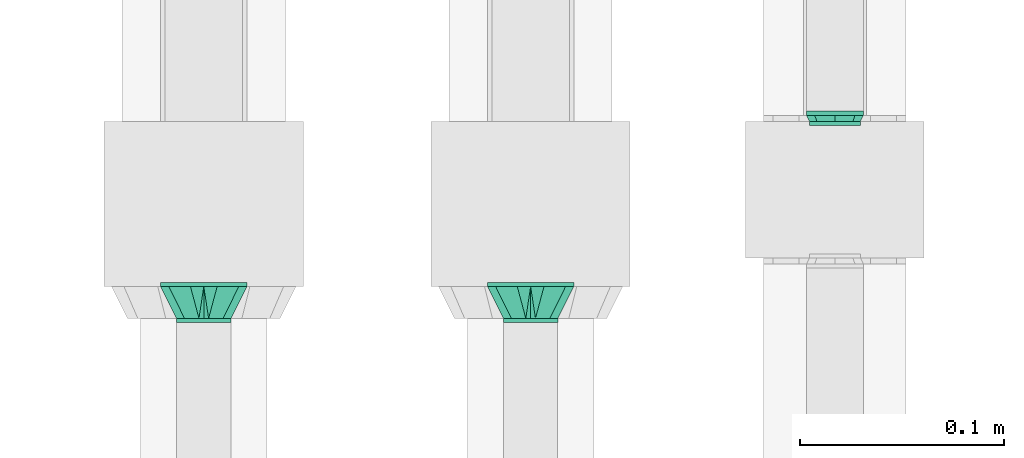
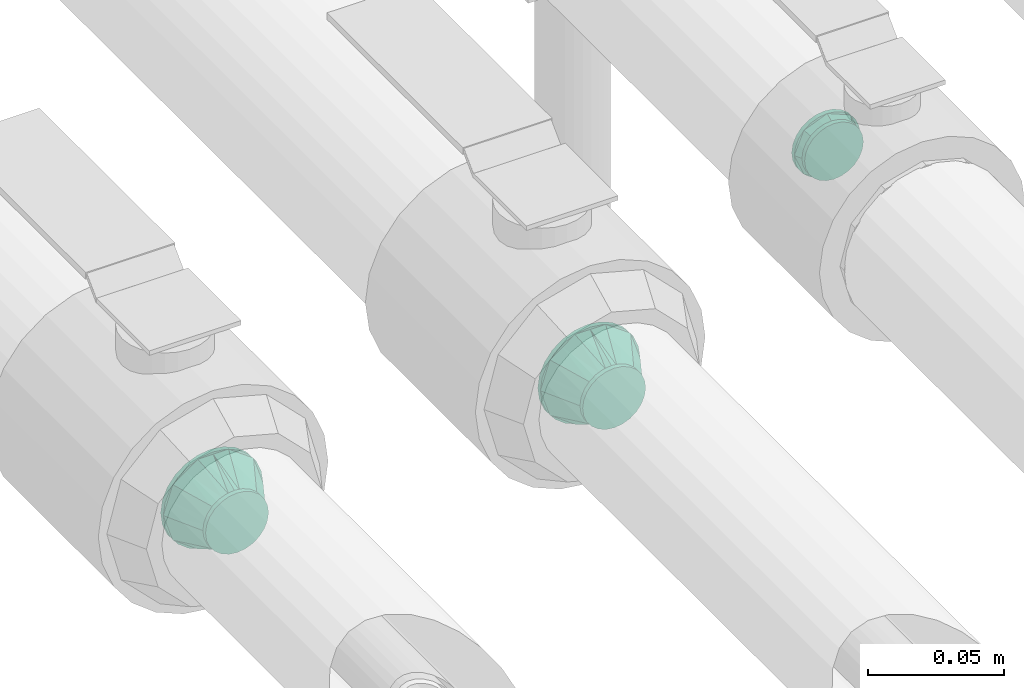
# One storey, part 48 of 83: 3 flow fittings.
"""IFC2X3 building model written with IfcOpenShell, lengths in millimetres."""

from ifc_helpers import new_model, entity, si_unit, converted_unit, derived_unit, direction, frame, origin_with_axes, place, context, subcontext, project, spatial, open_shell, surface_model, source, transform, mapped, type_object, element, save


model = new_model("IFC2X3")

# Units and contexts
model_context = context("Model", 3, precision=0.01, world=frame((0.0, 4.29681676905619e-09, 0.0)), true_north=direction((4.01073788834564e-13, 1.0)))
plan_context = context("Plan", 3, precision=0.01, world=frame((0.0, 4.29681676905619e-09, 0.0)), true_north=direction((4.01073788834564e-13, 1.0)))
body_context = subcontext(model_context, "Body", "Model", "MODEL_VIEW")
ifc_project = project(units=[converted_unit("PLANEANGLEUNIT", "DEGREE", entity("IfcPositiveLengthMeasure", 0.0174532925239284), si_unit("PLANEANGLEUNIT", "RADIAN"), dimensions=[0, 0, 0, 0, 0, 0, 0]), si_unit("AREAUNIT", "SQUARE_METRE"), si_unit("LENGTHUNIT", "METRE", prefix="MILLI"), si_unit("MASSUNIT", "GRAM", prefix="KILO"), si_unit("POWERUNIT", "WATT"), si_unit("PRESSUREUNIT", "PASCAL"), si_unit("FORCEUNIT", "NEWTON", prefix="KILO"), si_unit("ELECTRICVOLTAGEUNIT", "VOLT"), si_unit("ELECTRICCURRENTUNIT", "AMPERE"), si_unit("THERMODYNAMICTEMPERATUREUNIT", "DEGREE_CELSIUS"), si_unit("TIMEUNIT", "SECOND"), si_unit("VOLUMEUNIT", "CUBIC_METRE"), derived_unit("LINEARVELOCITYUNIT", [(si_unit("LENGTHUNIT", "METRE"), 1), (si_unit("TIMEUNIT", "SECOND"), -1)]), derived_unit("VOLUMETRICFLOWRATEUNIT", [(si_unit("VOLUMEUNIT", "CUBIC_METRE"), 1), (si_unit("TIMEUNIT", "SECOND"), -1)]), derived_unit("THERMALTRANSMITTANCEUNIT", [(si_unit("POWERUNIT", "WATT"), 1), (si_unit("THERMODYNAMICTEMPERATUREUNIT", "KELVIN"), -1), (si_unit("AREAUNIT", "SQUARE_METRE"), -1)]), derived_unit("SOUNDPRESSUREUNIT", [(si_unit("PRESSUREUNIT", "PASCAL"), 1)])], contexts=[model_context, plan_context])

# Site, building, storey
site_placement = place(None, frame((0.0, -4.29681676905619e-09, 0.0), z_axis=(0.0, 0.0, 1.0), x_axis=(1.0, 0.0, 0.0)))
site = spatial("IfcSite", under=ifc_project, at=site_placement, Name="ENGM", CompositionType="ELEMENT")
building_placement = place(site_placement, frame((0.0, 4.29681676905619e-09, 0.0), z_axis=(0.0, 0.0, 1.0), x_axis=(1.0, 0.0, 0.0)))
building = spatial("IfcBuilding", under=site, at=building_placement, Name="TI", CompositionType="ELEMENT")
storey_placement = place(building_placement, frame((0.0, 0.0, 204000.0), z_axis=(0.0, 0.0, 1.0), x_axis=(1.0, 0.0, 0.0)))
storey = spatial("IfcBuildingStorey", under=building, at=storey_placement, Name="Nivå D", CompositionType="ELEMENT", Elevation=204000.0)

# Flow fittings
pipe_fitting_type_1 = type_object("IfcPipeFittingType", Name="magi_pipe_cu_reducer_centric_short_001", PredefinedType="TRANSITION")
shared_shape_1 = source(origin_with_axes(), body_context, "Body", "SurfaceModel", [
    surface_model("IfcShellBasedSurfaceModel", [(-2.0, 9.89949, 9.89949), (-2.0, 0.0, 14.0), (-2.0, 3.62347, 13.52296), (-2.0, 7.0, 12.12436), (-2.0, 12.12436, 7.0), (-2.0, 13.52296, 3.62347), (-2.0, -14.0, 0.0), (-2.0, -12.12436, -7.0), (-2.0, -3.62347, 13.52296), (-2.0, -9.89949, 9.89949), (-2.0, -7.0, 12.12436), (-2.0, -13.52296, 3.62347), (-2.0, -12.12436, 7.0), (-2.0, 13.52296, -3.62347), (-2.0, 3.62347, -13.52296), (-2.0, 12.12436, -7.0), (-2.0, 9.89949, -9.89949), (-2.0, 7.0, -12.12436), (-2.0, 0.0, -14.0), (-2.0, -7.0, -12.12436), (-2.0, -9.89949, -9.89949), (-2.0, -13.52296, -3.62347), (-2.0, -3.62347, -13.52296), (-2.0, 14.0, 0.0), (0.0, 3.62347, -13.52296), (0.0, 7.0, -12.12436), (0.0, 9.89949, -9.89949), (0.0, 12.12436, -7.0), (0.0, 13.52296, -3.62347), (0.0, -7.0, -12.12436), (0.0, -12.12436, -7.0), (0.0, 14.0, 0.0), (0.0, 0.0, -14.0), (0.0, -3.62347, -13.52296), (0.0, -9.89949, -9.89949), (0.0, -13.52296, -3.62347), (0.0, 13.52296, 3.62347), (0.0, 12.12436, 7.0), (0.0, 9.89949, 9.89949), (0.0, 7.0, 12.12436), (0.0, 3.62347, 13.52296), (0.0, 0.0, 14.0), (0.0, -3.62347, 13.52296), (0.0, -13.52296, 3.62347), (0.0, -9.89949, 9.89949), (0.0, -12.12436, 7.0), (0.0, -14.0, 0.0), (0.0, -7.0, 12.12436), (5.0, 3.23524, -12.07407), (5.0, 6.25, -10.82532), (5.0, 8.83883, -8.83883), (5.0, 12.07407, -3.23524), (5.0, -12.07407, -3.23524), (5.0, 10.82532, -6.25), (5.0, -10.82532, 6.25), (5.0, 0.0, -12.5), (5.0, -6.25, -10.82532), (5.0, -3.23524, -12.07407), (5.0, -8.83883, -8.83883), (5.0, -10.82532, -6.25), (5.0, 12.5, 0.0), (5.0, 12.07407, 3.23524), (5.0, 10.82532, 6.25), (5.0, 8.83883, 8.83883), (5.0, 6.25, 10.82532), (5.0, 3.23524, 12.07407), (5.0, 0.0, 12.5), (5.0, -12.5, 0.0), (5.0, -12.07407, 3.23524), (5.0, -6.25, 10.82532), (5.0, -8.83883, 8.83883), (5.0, -3.23524, 12.07407), (3.0, 0.0, 12.5), (3.0, 3.23524, 12.07407), (3.0, 6.25, 10.82532), (3.0, -10.82532, 6.25), (3.0, 8.83883, 8.83883), (3.0, 10.82532, 6.25), (3.0, 12.07407, 3.23524), (3.0, -12.07407, -3.23524), (3.0, -3.23524, 12.07407), (3.0, -8.83883, 8.83883), (3.0, -6.25, 10.82532), (3.0, -12.5, 0.0), (3.0, -12.07407, 3.23524), (3.0, 12.07407, -3.23524), (3.0, 8.83883, -8.83883), (3.0, 10.82532, -6.25), (3.0, 6.25, -10.82532), (3.0, 3.23524, -12.07407), (3.0, -6.25, -10.82532), (3.0, -8.83883, -8.83883), (3.0, -10.82532, -6.25), (3.0, 0.0, -12.5), (3.0, -3.23524, -12.07407), (3.0, 12.5, 0.0), (3.0, 11.10264, -3.37353), (3.0, 9.97074, -6.10618), (0.0, 11.94975, -4.94975), (0.0, 12.97487, -2.47487), (0.0, 2.47487, -12.97487), (3.0, 4.41942, -10.66942), (0.0, 7.42462, -10.92462), (3.0, 6.62913, -9.75413), (0.0, 4.94975, -11.94975), (3.0, 2.20971, -11.58471), (0.0, -11.94975, -4.94975), (3.0, -10.66942, -4.41942), (3.0, -11.58471, -2.20971), (3.0, -2.20971, -11.58471), (3.0, -9.75413, -6.62913), (0.0, -13.21748, -1.88918), (0.0, -10.92462, -7.42462), (3.0, -4.41942, -10.66942), (3.0, -6.62913, -9.75413), (0.0, -4.94975, -11.94975), (0.0, -2.47487, -12.97487), (0.0, -7.42462, -10.92462), (0.0, 10.92462, -7.42462), (3.0, -11.10264, 3.37353), (3.0, -9.97074, 6.10618), (0.0, -11.94975, 4.94975), (0.0, -12.97487, 2.47487), (0.0, -2.47487, 12.97487), (3.0, -4.41942, 10.66942), (0.0, -7.42462, 10.92462), (3.0, -6.62913, 9.75413), (0.0, -4.94975, 11.94975), (3.0, -2.20971, 11.58471), (0.0, 11.94975, 4.94975), (3.0, 10.66942, 4.41942), (3.0, 11.58471, 2.20971), (3.0, 2.20971, 11.58471), (3.0, 9.75413, 6.62913), (0.0, 13.21748, 1.88918), (0.0, 10.92462, 7.42462), (3.0, 4.41942, 10.66942), (3.0, 6.62913, 9.75413), (0.0, 4.94975, 11.94975), (0.0, 2.47487, 12.97487), (0.0, 7.42462, 10.92462), (0.0, -10.92462, 7.42462)], [open_shell([[[0, 1, 2]], [[0, 2, 3]], [[0, 4, 5]], [[0, 5, 1]], [[6, 1, 7]], [[8, 9, 10]], [[9, 8, 11]], [[9, 11, 12]], [[11, 8, 6]], [[8, 1, 6]], [[1, 5, 7]], [[7, 5, 13]], [[14, 13, 15]], [[16, 17, 14]], [[16, 14, 15]], [[18, 13, 14]], [[7, 19, 20]], [[21, 6, 7]], [[19, 18, 22]], [[19, 7, 13]], [[18, 19, 13]], [[5, 23, 13]], [[24, 25, 26]], [[24, 26, 27]], [[24, 28, 29]], [[28, 24, 27]], [[30, 28, 31]], [[32, 29, 33]], [[32, 24, 29]], [[29, 30, 34]], [[28, 30, 29]], [[31, 35, 30]], [[31, 36, 35]], [[36, 37, 38]], [[36, 38, 39]], [[40, 41, 36]], [[40, 36, 39]], [[36, 41, 42]], [[43, 44, 45]], [[42, 43, 46]], [[44, 42, 47]], [[42, 44, 43]], [[46, 36, 42]], [[36, 46, 35]], [[21, 35, 6]], [[7, 30, 21]], [[29, 20, 19]], [[7, 20, 34]], [[33, 19, 22]], [[21, 30, 35]], [[35, 46, 6]], [[33, 29, 19]], [[34, 20, 29]], [[34, 30, 7]], [[32, 33, 22]], [[22, 18, 32]], [[14, 24, 18]], [[17, 25, 14]], [[27, 16, 15]], [[17, 16, 26]], [[28, 15, 13]], [[17, 26, 25]], [[25, 24, 14]], [[31, 28, 13]], [[27, 15, 28]], [[27, 26, 16]], [[23, 31, 13]], [[18, 24, 32]], [[5, 36, 23]], [[4, 37, 5]], [[39, 0, 3]], [[4, 0, 38]], [[40, 3, 2]], [[5, 37, 36]], [[36, 31, 23]], [[40, 39, 3]], [[38, 0, 39]], [[38, 37, 4]], [[41, 40, 2]], [[2, 1, 41]], [[8, 42, 1]], [[10, 47, 8]], [[45, 9, 12]], [[10, 9, 44]], [[43, 12, 11]], [[10, 44, 47]], [[47, 42, 8]], [[46, 43, 11]], [[45, 12, 43]], [[45, 44, 9]], [[6, 46, 11]], [[1, 42, 41]], [[34, 46, 32]], [[38, 32, 46]], [[32, 38, 26]], [[26, 38, 31]], [[48, 49, 50]], [[48, 50, 51]], [[48, 51, 52]], [[51, 50, 53]], [[54, 52, 51]], [[55, 56, 57]], [[55, 48, 56]], [[58, 52, 59]], [[52, 58, 56]], [[48, 52, 56]], [[51, 60, 54]], [[61, 62, 63]], [[61, 63, 64]], [[64, 65, 66]], [[61, 64, 54]], [[54, 64, 66]], [[67, 54, 68]], [[52, 54, 67]], [[54, 69, 70]], [[69, 54, 71]], [[66, 71, 54]], [[54, 60, 61]], [[72, 73, 74]], [[75, 72, 74]], [[76, 77, 78]], [[74, 76, 79]], [[74, 79, 75]], [[80, 81, 82]], [[81, 80, 75]], [[75, 83, 84]], [[75, 80, 72]], [[75, 79, 83]], [[85, 76, 78]], [[79, 76, 85]], [[86, 85, 87]], [[86, 88, 89]], [[86, 89, 85]], [[90, 85, 89]], [[79, 91, 92]], [[79, 85, 91]], [[90, 93, 94]], [[91, 85, 90]], [[89, 93, 90]], [[85, 78, 95]], [[79, 52, 83]], [[92, 59, 79]], [[56, 91, 90]], [[92, 91, 58]], [[57, 90, 94]], [[79, 59, 52]], [[52, 67, 83]], [[57, 56, 90]], [[58, 91, 56]], [[58, 59, 92]], [[55, 57, 94]], [[94, 93, 55]], [[89, 48, 93]], [[88, 49, 89]], [[53, 86, 87]], [[88, 86, 50]], [[51, 87, 85]], [[88, 50, 49]], [[49, 48, 89]], [[60, 51, 85]], [[53, 87, 51]], [[53, 50, 86]], [[95, 60, 85]], [[93, 48, 55]], [[78, 61, 95]], [[77, 62, 78]], [[64, 76, 74]], [[77, 76, 63]], [[65, 74, 73]], [[78, 62, 61]], [[61, 60, 95]], [[65, 64, 74]], [[63, 76, 64]], [[63, 62, 77]], [[66, 65, 73]], [[73, 72, 66]], [[80, 71, 72]], [[82, 69, 80]], [[54, 81, 75]], [[82, 81, 70]], [[68, 75, 84]], [[82, 70, 69]], [[69, 71, 80]], [[67, 68, 84]], [[54, 75, 68]], [[54, 70, 81]], [[83, 67, 84]], [[72, 71, 66]], [[72, 81, 95]], [[95, 76, 72]], [[81, 91, 95]], [[93, 95, 91]], [[86, 95, 93]], [[91, 81, 83]], [[41, 38, 44]], [[46, 44, 38]], [[96, 97, 98]], [[95, 96, 99]], [[95, 99, 31]], [[93, 32, 100]], [[101, 102, 103]], [[26, 86, 103]], [[104, 105, 100]], [[106, 107, 108]], [[96, 98, 99]], [[32, 93, 109]], [[110, 34, 91]], [[108, 83, 111]], [[107, 112, 110]], [[34, 110, 112]], [[113, 114, 115]], [[113, 116, 109]], [[93, 100, 105]], [[114, 91, 117]], [[32, 109, 116]], [[86, 118, 97]], [[101, 104, 102]], [[26, 103, 102]], [[105, 104, 101]], [[83, 46, 111]], [[106, 108, 111]], [[112, 107, 106]], [[91, 34, 117]], [[115, 114, 117]], [[116, 113, 115]], [[118, 86, 26]], [[118, 98, 97]], [[119, 120, 121]], [[83, 119, 122]], [[83, 122, 46]], [[72, 41, 123]], [[124, 125, 126]], [[44, 81, 126]], [[127, 128, 123]], [[129, 130, 131]], [[119, 121, 122]], [[41, 72, 132]], [[133, 38, 76]], [[131, 95, 134]], [[130, 135, 133]], [[38, 133, 135]], [[136, 137, 138]], [[136, 139, 132]], [[72, 123, 128]], [[137, 76, 140]], [[41, 132, 139]], [[81, 141, 120]], [[124, 127, 125]], [[44, 126, 125]], [[128, 127, 124]], [[95, 31, 134]], [[129, 131, 134]], [[135, 130, 129]], [[76, 38, 140]], [[138, 137, 140]], [[139, 136, 138]], [[141, 81, 44]], [[141, 121, 120]]])]),
])
flow_fitting_placement = place(storey_placement, frame((599881.50429, 698825.97914, 6052.17455), z_axis=(0.0, 0.0, 1.0), x_axis=(0.0, -1.0, 0.0)))
element("IfcFlowFitting", 1, at=flow_fitting_placement, inside=storey, type_object=pipe_fitting_type_1, Name="magi_pipe_cu_reducer_centric_short_001", context=body_context, shape_type="MappedRepresentation", body=[
    mapped(shared_shape_1, transform((0.0, 0.0, 0.0), scale=1.0)),
])
pipe_fitting_type_2 = type_object("IfcPipeFittingType", Name="magi_pipe_fe_reducer_centric_short_NOR", PredefinedType="TRANSITION")
shared_shape_2 = source(origin_with_axes(), body_context, "Body", "SurfaceModel", [
    surface_model("IfcShellBasedSurfaceModel", [(17.6, 12.94341, -3.46818), (17.6, 3.46818, -12.94341), (17.6, 6.7, -11.60474), (17.6, 9.47523, -9.47523), (17.6, -6.7, -11.60474), (17.6, -12.94341, 3.46818), (17.6, 11.60474, -6.7), (17.6, 0.0, -13.4), (17.6, -3.46818, -12.94341), (17.6, -9.47523, -9.47523), (17.6, -12.94341, -3.46818), (17.6, -11.60474, -6.7), (17.6, 13.4, 0.0), (17.6, 12.94341, 3.46818), (17.6, 11.60474, 6.7), (17.6, 9.47523, 9.47523), (17.6, 0.0, 13.4), (17.6, 6.7, 11.60474), (17.6, 3.46818, 12.94341), (17.6, -6.7, 11.60474), (17.6, -9.47523, 9.47523), (17.6, -11.60474, 6.7), (17.6, -13.4, 0.0), (17.6, -3.46818, 12.94341), (15.6, 0.0, 13.4), (15.6, 3.46818, 12.94341), (15.6, 6.7, 11.60474), (15.6, -3.46818, 12.94341), (15.6, 9.47523, 9.47523), (15.6, 11.60474, 6.7), (15.6, 12.94341, 3.46818), (15.6, -12.94341, 3.46818), (15.6, -9.47523, 9.47523), (15.6, -6.7, 11.60474), (15.6, -11.60474, 6.7), (15.6, -12.94341, -3.46818), (15.6, -13.4, 0.0), (15.6, -6.7, -11.60474), (15.6, 12.94341, -3.46818), (15.6, 9.47523, -9.47523), (15.6, 11.60474, -6.7), (15.6, 6.7, -11.60474), (15.6, 3.46818, -12.94341), (15.6, -9.47523, -9.47523), (15.6, -11.60474, -6.7), (15.6, 0.0, -13.4), (15.6, -3.46818, -12.94341), (15.6, 13.4, 0.0), (-2.0, 0.0, 21.2), (-2.0, 5.48696, 20.47763), (-2.0, 10.6, 18.35974), (-2.0, 14.99066, 14.99066), (-2.0, 18.35974, 10.6), (-2.0, 20.47763, 5.48696), (-2.0, -21.2, 0.0), (-2.0, -14.99066, -14.99066), (-2.0, -5.48696, 20.47763), (-2.0, -14.99066, 14.99066), (-2.0, -10.6, 18.35974), (-2.0, -18.35974, 10.6), (-2.0, -20.47763, 5.48696), (-2.0, 20.47763, -5.48696), (-2.0, 10.6, -18.35974), (-2.0, 14.99066, -14.99066), (-2.0, 18.35974, -10.6), (-2.0, 5.48696, -20.47763), (-2.0, 0.0, -21.2), (-2.0, -18.35974, -10.6), (-2.0, -20.47763, -5.48696), (-2.0, -10.6, -18.35974), (-2.0, -5.48696, -20.47763), (-2.0, 21.2, 0.0), (0.0, 10.6, -18.35974), (0.0, 0.0, -21.2), (0.0, 5.48696, -20.47763), (0.0, 20.47763, -5.48696), (0.0, 14.99066, -14.99066), (0.0, -21.2, 0.0), (0.0, -14.99066, -14.99066), (0.0, 18.35974, -10.6), (0.0, -10.6, -18.35974), (0.0, -5.48696, -20.47763), (0.0, -18.35974, -10.6), (0.0, -20.47763, -5.48696), (0.0, -18.35974, 10.6), (0.0, 21.2, 0.0), (0.0, 20.47763, 5.48696), (0.0, 18.35974, 10.6), (0.0, 14.99066, 14.99066), (0.0, 0.0, 21.2), (0.0, 10.6, 18.35974), (0.0, 5.48696, 20.47763), (0.0, -14.99066, 14.99066), (0.0, -20.47763, 5.48696), (0.0, -5.48696, 20.47763), (0.0, -10.6, 18.35974), (0.0, 6.55116, 20.1624), (0.0, 17.15116, 12.46105), (0.0, -17.15116, 12.46105), (0.0, -6.55116, 20.1624), (0.0, 6.55116, -20.1624), (0.0, 17.15116, -12.46105), (0.0, -6.55116, -20.1624), (0.0, -17.15116, -12.46105), (15.6, -10.45642, -7.10642), (15.6, 11.43761, -4.73762), (0.0, 19.17558, -6.23052), (0.0, 11.85116, -16.31172), (0.0, 14.50116, -14.38638), (15.6, -11.43761, -4.73762), (0.0, -19.17558, -6.23052), (0.0, -18.16337, -9.34579), (15.6, 4.73762, -11.43761), (0.0, 0.0, -20.1624), (15.6, -2.36881, -12.41881), (15.6, 2.36881, -12.41881), (15.6, 7.10642, -10.45642), (15.6, 10.45642, -7.10642), (15.6, -12.41881, -2.36881), (0.0, -11.85116, -16.31172), (15.6, -4.73762, -11.43761), (15.6, -7.10642, -10.45642), (15.6, 12.41881, -2.36881), (15.6, 10.45642, 7.10642), (15.6, -11.43761, 4.73762), (0.0, -19.17558, 6.23052), (0.0, -11.85116, 16.31172), (0.0, -14.50116, 14.38638), (15.6, 11.43761, 4.73762), (0.0, 19.17558, 6.23052), (0.0, 18.16337, 9.34579), (15.6, -4.73762, 11.43761), (0.0, 0.0, 20.1624), (15.6, 2.36881, 12.41881), (15.6, -2.36881, 12.41881), (15.6, -7.10642, 10.45642), (15.6, -10.45642, 7.10642), (15.6, 12.41881, 2.36881), (0.0, 11.85116, 16.31172), (15.6, 4.73762, 11.43761), (15.6, 7.10642, 10.45642), (15.6, -12.41881, 2.36881)], [open_shell([[[0, 1, 2]], [[0, 2, 3]], [[4, 1, 5]], [[0, 3, 6]], [[1, 0, 5]], [[7, 4, 8]], [[7, 1, 4]], [[9, 10, 11]], [[5, 10, 9]], [[9, 4, 5]], [[0, 12, 5]], [[13, 14, 15]], [[13, 15, 16]], [[17, 18, 16]], [[17, 16, 15]], [[13, 16, 19]], [[5, 20, 21]], [[22, 10, 5]], [[5, 19, 20]], [[5, 13, 19]], [[23, 19, 16]], [[5, 12, 13]], [[24, 25, 26]], [[27, 24, 26]], [[28, 29, 30]], [[26, 28, 27]], [[30, 31, 28]], [[27, 32, 33]], [[32, 27, 31]], [[32, 31, 34]], [[27, 28, 31]], [[31, 35, 36]], [[31, 30, 37]], [[38, 39, 30]], [[39, 38, 40]], [[41, 37, 30]], [[30, 39, 41]], [[37, 41, 42]], [[35, 43, 44]], [[35, 31, 43]], [[37, 45, 46]], [[31, 37, 43]], [[42, 45, 37]], [[47, 38, 30]], [[35, 10, 36]], [[44, 11, 35]], [[4, 43, 37]], [[44, 43, 9]], [[8, 37, 46]], [[35, 11, 10]], [[10, 22, 36]], [[8, 4, 37]], [[9, 43, 4]], [[9, 11, 44]], [[7, 8, 46]], [[46, 45, 7]], [[42, 1, 45]], [[41, 2, 42]], [[6, 39, 40]], [[41, 39, 3]], [[0, 40, 38]], [[41, 3, 2]], [[2, 1, 42]], [[12, 0, 38]], [[6, 40, 0]], [[6, 3, 39]], [[47, 12, 38]], [[45, 1, 7]], [[30, 13, 47]], [[29, 14, 30]], [[17, 28, 26]], [[29, 28, 15]], [[18, 26, 25]], [[30, 14, 13]], [[13, 12, 47]], [[18, 17, 26]], [[15, 28, 17]], [[15, 14, 29]], [[16, 18, 25]], [[25, 24, 16]], [[27, 23, 24]], [[33, 19, 27]], [[21, 32, 34]], [[33, 32, 20]], [[5, 34, 31]], [[33, 20, 19]], [[19, 23, 27]], [[22, 5, 31]], [[21, 34, 5]], [[21, 20, 32]], [[36, 22, 31]], [[24, 23, 16]], [[48, 49, 50]], [[48, 50, 51]], [[51, 52, 53]], [[51, 53, 48]], [[54, 48, 55]], [[56, 57, 58]], [[56, 48, 57]], [[59, 54, 60]], [[57, 48, 59]], [[48, 54, 59]], [[48, 53, 55]], [[53, 61, 62]], [[63, 61, 64]], [[55, 53, 62]], [[62, 61, 63]], [[65, 66, 62]], [[54, 67, 68]], [[55, 67, 54]], [[69, 66, 70]], [[69, 55, 62]], [[66, 69, 62]], [[61, 53, 71]], [[72, 73, 74]], [[75, 72, 76]], [[77, 78, 72]], [[75, 76, 79]], [[75, 77, 72]], [[73, 80, 81]], [[73, 72, 80]], [[82, 77, 83]], [[80, 72, 78]], [[82, 78, 77]], [[84, 75, 85]], [[86, 87, 88]], [[86, 88, 89]], [[90, 91, 89]], [[90, 89, 88]], [[86, 89, 92]], [[77, 84, 93]], [[75, 84, 77]], [[92, 94, 95]], [[84, 86, 92]], [[89, 94, 92]], [[84, 85, 86]], [[68, 83, 54]], [[67, 82, 68]], [[80, 55, 69]], [[67, 55, 78]], [[81, 69, 70]], [[68, 82, 83]], [[83, 77, 54]], [[81, 80, 69]], [[78, 55, 80]], [[78, 82, 67]], [[73, 81, 70]], [[70, 66, 73]], [[65, 74, 66]], [[62, 72, 65]], [[79, 63, 64]], [[62, 63, 76]], [[75, 64, 61]], [[62, 76, 72]], [[72, 74, 65]], [[85, 75, 61]], [[79, 64, 75]], [[79, 76, 63]], [[71, 85, 61]], [[66, 74, 73]], [[53, 86, 71]], [[52, 87, 53]], [[90, 51, 50]], [[52, 51, 88]], [[91, 50, 49]], [[53, 87, 86]], [[86, 85, 71]], [[91, 90, 50]], [[88, 51, 90]], [[88, 87, 52]], [[89, 91, 49]], [[49, 48, 89]], [[56, 94, 48]], [[58, 95, 56]], [[84, 57, 59]], [[58, 57, 92]], [[93, 59, 60]], [[58, 92, 95]], [[95, 94, 56]], [[77, 93, 60]], [[84, 59, 93]], [[84, 92, 57]], [[54, 77, 60]], [[48, 94, 89]], [[24, 32, 47]], [[47, 28, 24]], [[32, 45, 47]], [[45, 32, 43]], [[39, 47, 45]], [[43, 32, 36]], [[96, 97, 98]], [[96, 98, 99]], [[98, 97, 77]], [[97, 100, 77]], [[100, 97, 101]], [[102, 103, 77]], [[77, 100, 102]], [[97, 85, 101]], [[103, 43, 104]], [[105, 101, 106]], [[39, 107, 108]], [[109, 110, 111]], [[100, 107, 112]], [[113, 114, 102]], [[113, 115, 45]], [[116, 112, 107]], [[101, 105, 117]], [[39, 108, 101]], [[77, 118, 36]], [[43, 103, 119]], [[119, 120, 121]], [[77, 110, 118]], [[100, 115, 113]], [[85, 122, 106]], [[114, 120, 102]], [[114, 113, 45]], [[100, 112, 115]], [[122, 85, 47]], [[109, 118, 110]], [[103, 104, 111]], [[104, 109, 111]], [[39, 101, 117]], [[120, 119, 102]], [[121, 43, 119]], [[122, 105, 106]], [[107, 39, 116]], [[97, 28, 123]], [[124, 98, 125]], [[32, 126, 127]], [[128, 129, 130]], [[99, 126, 131]], [[132, 133, 96]], [[132, 134, 24]], [[135, 131, 126]], [[98, 124, 136]], [[32, 127, 98]], [[85, 137, 47]], [[28, 97, 138]], [[138, 139, 140]], [[85, 129, 137]], [[99, 134, 132]], [[77, 141, 125]], [[133, 139, 96]], [[133, 132, 24]], [[99, 131, 134]], [[141, 77, 36]], [[128, 137, 129]], [[97, 123, 130]], [[123, 128, 130]], [[32, 98, 136]], [[139, 138, 96]], [[140, 28, 138]], [[141, 124, 125]], [[126, 32, 135]]])]),
])
for number, where, z_axis, x_axis, name in (
    (2, (599571.9743, 698741.97914, 6052.20000000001), (0.0, 0.0, 1.0), (0.0, -1.0, 0.0), "magi_pipe_fe_reducer_centric_short_NOR"),
    (3, (599732.2743, 698741.97914, 6052.16826999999), (-6.999999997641e-06, -2.4999999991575e-05, 0.999999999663), (2.7999999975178e-11, -0.9999999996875, -2.49999999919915e-05), "magi_pipe_fe_reducer_centric_short_NOR"),
):
    element("IfcFlowFitting", number, at=place(storey_placement, frame(where, z_axis=z_axis, x_axis=x_axis)), inside=storey, type_object=pipe_fitting_type_2, Name=name, context=body_context, shape_type="MappedRepresentation", body=[
        mapped(shared_shape_2, transform((0.0, 0.0, 0.0), scale=1.0)),
    ])

save(model, "model.ifc")
